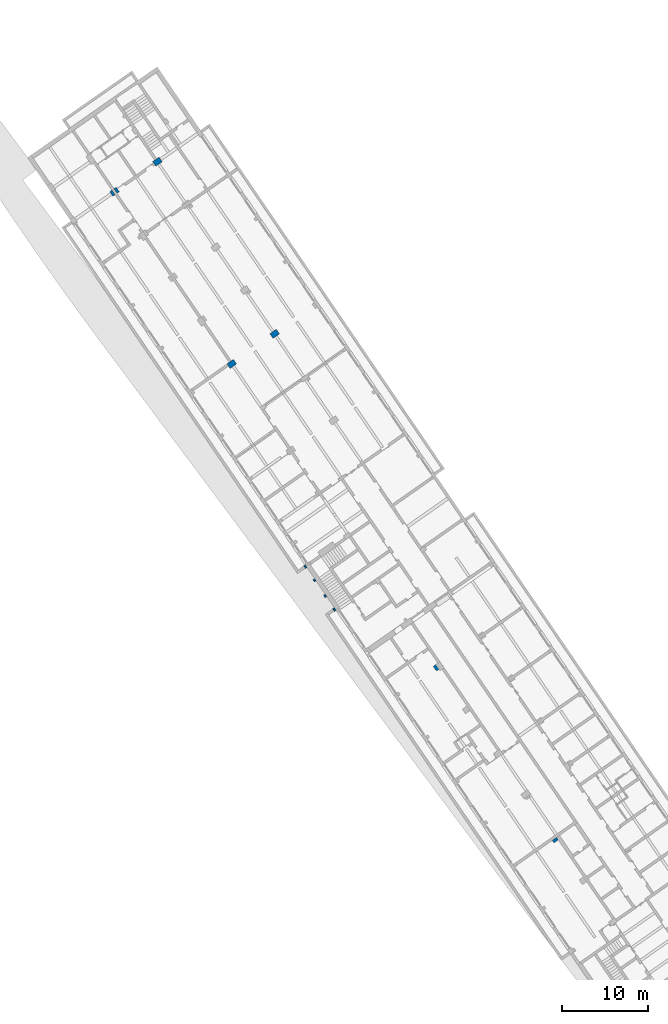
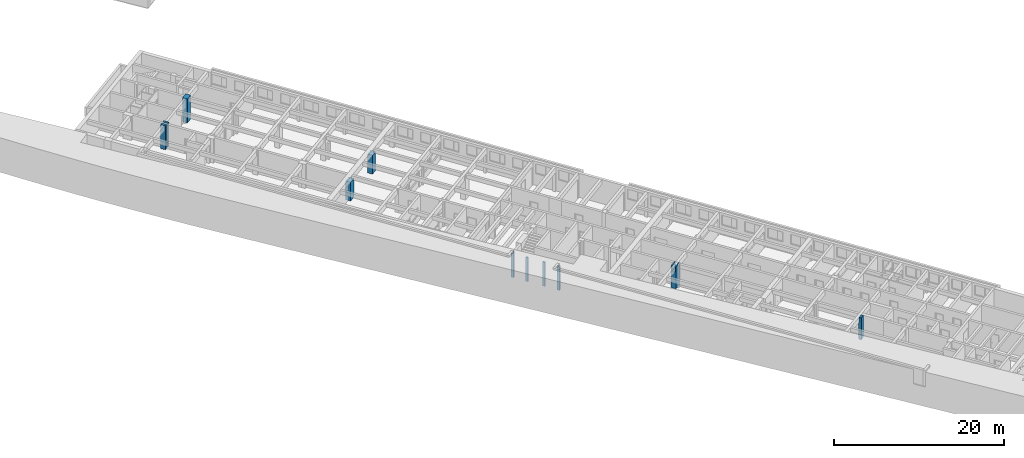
# One storey, part 1 of 112: 10 columns.
"""IFC2X3 building model written with IfcOpenShell, lengths in millimetres."""

from ifc_helpers import new_model, entity, si_unit, converted_unit, derived_unit, direction, frame, origin, origin_2d_with_axis, place, context, subcontext, project, spatial, polyline, rectangle, outline, extrude, faceted_brep, source, transform, mapped, material, material_list, type_object, type_shapes, element, save


model = new_model("IFC2X3")

# Units and contexts
model_context = context("Model", 3, precision=0.01, world=origin(), true_north=direction((6.123031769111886e-17, 1.0)))
body_context = subcontext(model_context, "Body", "Model", "MODEL_VIEW")
ifc_project = project(units=[si_unit("LENGTHUNIT", "METRE", prefix="MILLI"), si_unit("AREAUNIT", "SQUARE_METRE"), si_unit("VOLUMEUNIT", "CUBIC_METRE"), converted_unit("PLANEANGLEUNIT", "DEGREE", entity("IfcRatioMeasure", 0.017453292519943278), si_unit("PLANEANGLEUNIT", "RADIAN"), dimensions=[0, 0, 0, 0, 0, 0, 0]), si_unit("MASSUNIT", "GRAM", prefix="KILO"), derived_unit("MASSDENSITYUNIT", [(si_unit("MASSUNIT", "GRAM", prefix="KILO"), 1), (si_unit("LENGTHUNIT", "METRE"), -3)]), derived_unit("MOMENTOFINERTIAUNIT", [(si_unit("LENGTHUNIT", "METRE"), 4)]), si_unit("TIMEUNIT", "SECOND"), si_unit("FREQUENCYUNIT", "HERTZ"), si_unit("THERMODYNAMICTEMPERATUREUNIT", "DEGREE_CELSIUS"), derived_unit("THERMALTRANSMITTANCEUNIT", [(si_unit("MASSUNIT", "GRAM", prefix="KILO"), 1), (si_unit("THERMODYNAMICTEMPERATUREUNIT", "KELVIN"), -1), (si_unit("TIMEUNIT", "SECOND"), -3)]), derived_unit("THERMALCONDUCTANCEUNIT", [(si_unit("MASSUNIT", "GRAM", prefix="KILO"), 1), (si_unit("LENGTHUNIT", "METRE"), 1), (si_unit("THERMODYNAMICTEMPERATUREUNIT", "KELVIN"), -1), (si_unit("TIMEUNIT", "SECOND"), -3)]), derived_unit("VOLUMETRICFLOWRATEUNIT", [(si_unit("LENGTHUNIT", "METRE"), 3), (si_unit("TIMEUNIT", "SECOND"), -1)]), derived_unit("MASSFLOWRATEUNIT", [(si_unit("MASSUNIT", "GRAM", prefix="KILO"), 1), (si_unit("TIMEUNIT", "SECOND"), -1)]), derived_unit("ROTATIONALFREQUENCYUNIT", [(si_unit("TIMEUNIT", "SECOND"), -1)]), si_unit("ELECTRICCURRENTUNIT", "AMPERE"), si_unit("ELECTRICVOLTAGEUNIT", "VOLT"), si_unit("POWERUNIT", "WATT"), converted_unit("FORCEUNIT", "KIP", entity("IfcRatioMeasure", 2.088543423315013e-05), si_unit("FORCEUNIT", "NEWTON"), dimensions=[1, 1, -2, 0, 0, 0, 0]), si_unit("ILLUMINANCEUNIT", "LUX"), si_unit("LUMINOUSFLUXUNIT", "LUMEN"), si_unit("LUMINOUSINTENSITYUNIT", "CANDELA"), derived_unit("USERDEFINED", [(si_unit("MASSUNIT", "GRAM", prefix="KILO"), -1), (si_unit("LENGTHUNIT", "METRE"), -2), (si_unit("TIMEUNIT", "SECOND"), 3), (si_unit("LUMINOUSFLUXUNIT", "LUMEN"), 1)]), derived_unit("USERDEFINED", [(si_unit("MASSUNIT", "GRAM", prefix="KILO"), 1), (si_unit("LENGTHUNIT", "METRE"), 3), (si_unit("TIMEUNIT", "SECOND"), -3), (si_unit("ELECTRICCURRENTUNIT", "AMPERE"), -2)]), derived_unit("USERDEFINED", [(si_unit("LENGTHUNIT", "METRE"), 2), (si_unit("TIMEUNIT", "SECOND"), -2)]), derived_unit("SOUNDPOWERUNIT", [(si_unit("MASSUNIT", "GRAM", prefix="KILO"), 1), (si_unit("LENGTHUNIT", "METRE"), 2), (si_unit("TIMEUNIT", "SECOND"), -3)]), derived_unit("SOUNDPRESSUREUNIT", [(si_unit("MASSUNIT", "GRAM", prefix="KILO"), 1), (si_unit("LENGTHUNIT", "METRE"), -1), (si_unit("TIMEUNIT", "SECOND"), -2)]), derived_unit("LINEARVELOCITYUNIT", [(si_unit("LENGTHUNIT", "METRE"), 1), (si_unit("TIMEUNIT", "SECOND"), -1)]), si_unit("PRESSUREUNIT", "PASCAL"), derived_unit("USERDEFINED", [(si_unit("LENGTHUNIT", "METRE"), -2), (si_unit("MASSUNIT", "GRAM", prefix="KILO"), 1), (si_unit("TIMEUNIT", "SECOND"), -2)]), derived_unit("LINEARFORCEUNIT", [(si_unit("MASSUNIT", "GRAM", prefix="KILO"), 1), (si_unit("LENGTHUNIT", "METRE"), 1), (si_unit("TIMEUNIT", "SECOND"), -2), (si_unit("LENGTHUNIT", "METRE"), -1)]), derived_unit("PLANARFORCEUNIT", [(si_unit("MASSUNIT", "GRAM", prefix="KILO"), 1), (si_unit("LENGTHUNIT", "METRE"), 1), (si_unit("TIMEUNIT", "SECOND"), -2), (si_unit("LENGTHUNIT", "METRE"), -2)]), derived_unit("SPECIFICHEATCAPACITYUNIT", [(si_unit("LENGTHUNIT", "METRE"), 2), (si_unit("TIMEUNIT", "SECOND"), -2), (si_unit("THERMODYNAMICTEMPERATUREUNIT", "KELVIN"), -1)]), derived_unit("VAPORPERMEABILITYUNIT", [(si_unit("TIMEUNIT", "SECOND"), 1), (si_unit("LENGTHUNIT", "METRE"), -1)]), derived_unit("DYNAMICVISCOSITYUNIT", [(si_unit("MASSUNIT", "GRAM", prefix="KILO"), 1), (si_unit("LENGTHUNIT", "METRE"), -1), (si_unit("TIMEUNIT", "SECOND"), -1)]), derived_unit("THERMALEXPANSIONCOEFFICIENTUNIT", [(si_unit("THERMODYNAMICTEMPERATUREUNIT", "KELVIN"), -1)])], contexts=[model_context])

# Site, building, storey
site_placement = place(None, frame((0.0, 0.0, 0.0), z_axis=(0.0, 0.0, 1.0), x_axis=(0.8191520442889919, 0.5735764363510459, 0.0)))
site = spatial("IfcSite", under=ifc_project, at=site_placement, Name="Default", CompositionType="ELEMENT")
building_placement = place(site_placement, origin())
building = spatial("IfcBuilding", under=site, at=building_placement, CompositionType="ELEMENT")
storey_placement = place(building_placement, frame((0.0, 0.0, -3600.0)))
storey = spatial("IfcBuildingStorey", under=building, at=storey_placement, Name="0.UG -3.60", CompositionType="ELEMENT", Elevation=-3600.0000000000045)

# Columns
ifc_material_1 = material(Name="Analytical Wall Surface_CJC")
column_type_1 = type_object("IfcColumnType", Name="Columns_Rectangular:95x65", PredefinedType="COLUMN", material=ifc_material_1)
shared_shape_1 = source(origin(), body_context, "Body", "Brep", [
    faceted_brep([(0.0, 0.0, 3150.0), (600.0486186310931, 0.0, 3150.0), (603.8678043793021, 300.0, 3150.0), (0.0, 300.0, 3150.0), (600.0486186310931, 0.0, 0.0), (0.0, 0.0, 0.0), (0.0, 350.0, 0.0), (604.5043353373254, 350.0, 0.0), (0.0, 300.0, 2400.0), (0.0, 350.0, 2400.0), (604.5043353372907, 350.0, 2400.0), (603.8678043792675, 300.0, 2400.0)], [[[0, 1, 2, 3]], [[4, 5, 6, 7]], [[5, 0, 3, 8, 9, 6]], [[0, 5, 4, 1]], [[1, 4, 7, 10, 11, 2]], [[6, 9, 10, 7]], [[11, 8, 3, 2]], [[8, 11, 10, 9]]]),
])
type_shapes(column_type_1, [shared_shape_1])
column_1_placement = place(storey_placement, frame((-217942.3663755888, 72921.35891435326, 300.0)))
element("IfcColumn", 1, at=column_1_placement, inside=storey, type_object=column_type_1, material=ifc_material_1, Name="Columns_Rectangular:95x65", ObjectType="Columns_Rectangular:95x65", context=body_context, shape_type="MappedRepresentation", body=[
    mapped(shared_shape_1, transform((0.0, 0.0, 0.0), scale=1.0)),
])
column_type_2 = type_object("IfcColumnType", Name="Columns_Rectangular:95x65", PredefinedType="COLUMN", material=ifc_material_1)
shared_shape_2 = source(origin(), body_context, "Body", "Brep", [
    faceted_brep([(950.0, 650.0, 3150.0), (0.0, 650.0, 3150.0), (0.0, 500.0, 3150.0), (950.0, 500.0, 3150.0), (0.0, 650.0, 0.0), (950.0, 650.0, 0.0), (950.0, 0.0, 0.0), (0.0, 0.0, 0.0), (0.0, 0.0, 3150.0), (0.0, 150.0, 3150.0), (0.0, 150.0, 2400.0), (0.0, 500.0, 2400.0), (950.0, 0.0, 3150.0), (950.0, 500.0, 2400.0), (950.0, 150.0, 2400.0), (950.0, 150.0, 3150.0)], [[[0, 1, 2, 3]], [[4, 5, 6, 7]], [[4, 7, 8, 9, 10, 11, 2, 1]], [[12, 8, 7, 6]], [[6, 5, 0, 3, 13, 14, 15, 12]], [[1, 0, 5, 4]], [[11, 13, 3, 2]], [[14, 10, 9, 15]], [[13, 11, 10, 14]], [[8, 12, 15, 9]]]),
])
type_shapes(column_type_2, [shared_shape_2])
column_2_placement = place(storey_placement, frame((-217678.8606983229, 97071.35891435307, 300.0)))
element("IfcColumn", 2, at=column_2_placement, inside=storey, type_object=column_type_2, material=ifc_material_1, Name="Columns_Rectangular:95x65", ObjectType="Columns_Rectangular:95x65", context=body_context, shape_type="MappedRepresentation", body=[
    mapped(shared_shape_2, transform((0.0, 0.0, 0.0), scale=1.0)),
])
ifc_material_2 = material(Name="<Unnamed>")
ifc_material_list = material_list([ifc_material_2, ifc_material_1])
column_type_3 = type_object("IfcColumnType", Name="Columns_Rectangular:90x65", PredefinedType="COLUMN", material=ifc_material_list)
shared_shape_3 = source(origin(), body_context, "Body", "SweptSolid", [
    extrude(outline(polyline([(-186.25983947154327, -462.4814020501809), (463.7401605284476, -462.4814020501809), (463.7401605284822, 437.5185979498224), (-186.25983947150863, 437.5185979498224), (-186.25983947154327, 116.66617805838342), (-182.44096317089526, 116.61756139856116), (-186.25983947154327, -183.3581312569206), (-186.25983947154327, -462.4814020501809)])), frame((-210294.93750104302, 164134.61292798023, -3600.0), z_axis=(0.0, 0.0, 1.0), x_axis=(0.0, -1.0, 0.0)), (0.0, 0.0, 1.0), 3450.000000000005),
])
type_shapes(column_type_3, [shared_shape_3])
column_3_placement = place(storey_placement, frame((0.0, 0.0, 3600.0)))
element("IfcColumn", 3, at=column_3_placement, inside=storey, type_object=column_type_3, material=ifc_material_1, Name="Columns_Rectangular:90x65", ObjectType="Columns_Rectangular:90x65", context=body_context, shape_type="MappedRepresentation", body=[
    mapped(shared_shape_3, transform((0.0, 0.0, 0.0), scale=1.0)),
])
column_type_4 = type_object("IfcColumnType", Name="Columns_Rectangular:90x65", PredefinedType="COLUMN", material=ifc_material_list)
shared_shape_4 = source(origin(), body_context, "Body", "SweptSolid", [
    extrude(outline(polyline([(-325.0, -149.9908840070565), (325.0, -149.9908840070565), (325.0, 145.85343277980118), (-325.0, 154.1283352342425), (-325.0, -149.9908840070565)])), frame((-216682.91420538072, 163995.87276745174, -3600.0), z_axis=(0.0, 0.0, 1.0), x_axis=(0.0, -1.0, 0.0)), (0.0, 0.0, 1.0), 3450.0),
    extrude(outline(polyline([(-154.13441256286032, -325.0), (149.99696133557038, -325.0), (149.99696133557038, 325.0), (-145.85951010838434, 325.0), (-154.13441256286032, -325.0)])), frame((-216082.90205072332, 163995.87276745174, -3600.0)), (0.0, 0.0, 1.0), 3450.0),
])
type_shapes(column_type_4, [shared_shape_4])
column_4_placement = place(storey_placement, frame((0.0, 0.0, 3600.0)))
element("IfcColumn", 4, at=column_4_placement, inside=storey, type_object=column_type_4, material=ifc_material_1, Name="Columns_Rectangular:90x65", ObjectType="Columns_Rectangular:90x65", context=body_context, shape_type="MappedRepresentation", body=[
    mapped(shared_shape_4, transform((0.0, 0.0, 0.0), scale=1.0)),
])
column_type_5 = type_object("IfcColumnType", Name="Columns_Rectangular:90x65", PredefinedType="COLUMN", material=ifc_material_list)
shared_shape_5 = source(origin(), body_context, "Body", "SweptSolid", [
    extrude(rectangle(XDim=650.0000000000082, YDim=900.0000000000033, at=origin_2d_with_axis()), frame((-210618.9581540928, 139846.35891435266, -3600.0), z_axis=(0.0, 0.0, 1.0), x_axis=(0.0, -1.0, 0.0)), (0.0, 0.0, 1.0), 2700.0000000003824),
])
type_shapes(column_type_5, [shared_shape_5])
column_5_placement = place(storey_placement, frame((0.0, 0.0, 3600.0)))
element("IfcColumn", 5, at=column_5_placement, inside=storey, type_object=column_type_5, material=ifc_material_1, Name="Columns_Rectangular:90x65", ObjectType="Columns_Rectangular:90x65", context=body_context, shape_type="MappedRepresentation", body=[
    mapped(shared_shape_5, transform((0.0, 0.0, 0.0), scale=1.0)),
])
column_type_6 = type_object("IfcColumnType", Name="Columns_Rectangular:90x65", PredefinedType="COLUMN", material=ifc_material_list)
shared_shape_6 = source(origin(), body_context, "Body", "SweptSolid", [
    extrude(rectangle(XDim=650.0000000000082, YDim=900.0000000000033, at=origin_2d_with_axis()), frame((-216694.45041774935, 139846.358914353, -3600.0), z_axis=(0.0, 0.0, 1.0), x_axis=(0.0, -1.0, 0.0)), (0.0, 0.0, 1.0), 2700.0000000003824),
])
type_shapes(column_type_6, [shared_shape_6])
column_6_placement = place(storey_placement, frame((0.0, 0.0, 3600.0)))
element("IfcColumn", 6, at=column_6_placement, inside=storey, type_object=column_type_6, material=ifc_material_1, Name="Columns_Rectangular:90x65", ObjectType="Columns_Rectangular:90x65", context=body_context, shape_type="MappedRepresentation", body=[
    mapped(shared_shape_6, transform((0.0, 0.0, 0.0), scale=1.0)),
])
column_type_7 = type_object("IfcColumnType", Name="Columns_Rectangular:67.5x35", PredefinedType="COLUMN", material=ifc_material_1)
shared_shape_7 = source(origin(), body_context, "Body", "Brep", [
    faceted_brep([(0.0, 0.0, 3450.0), (203.675981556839, 0.0, 3450.0), (208.13169826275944, 350.0, 3450.0), (0.0, 350.0, 3450.0), (0.0, 325.0, 3450.0), (7.735763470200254, 325.0, 3450.0), (7.735763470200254, 25.0, 3450.0), (0.0, 25.0, 3450.0), (0.0, 0.0, 0.0), (0.0, 350.0, 0.0), (208.1316982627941, 350.0, 0.0), (203.67598155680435, 0.0, 0.0), (0.0, 25.0, 1600.0), (0.0, 325.0, 1600.0), (7.735763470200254, 25.0, 1600.0), (7.735763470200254, 325.0, 1600.0)], [[[0, 1, 2, 3, 4, 5, 6, 7]], [[8, 9, 10, 11]], [[9, 8, 0, 7, 12, 13, 4, 3]], [[0, 8, 11, 1]], [[9, 3, 2, 10]], [[11, 10, 2, 1]], [[6, 14, 12, 7]], [[13, 15, 5, 4]], [[14, 15, 13, 12]], [[15, 14, 6, 5]]]),
])
type_shapes(column_type_7, [shared_shape_7])
column_7_placement = place(storey_placement, frame((-223380.51426439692, 109521.35891435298, 0.0)))
element("IfcColumn", 7, at=column_7_placement, inside=storey, type_object=column_type_7, material=ifc_material_1, Name="Columns_Rectangular:67.5x35", ObjectType="Columns_Rectangular:67.5x35", context=body_context, shape_type="MappedRepresentation", body=[
    mapped(shared_shape_7, transform((0.0, 0.0, 0.0), scale=1.0)),
])
column_type_8 = type_object("IfcColumnType", Name="Columns_Rectangular:67.5x30", PredefinedType="COLUMN", material=ifc_material_list)
shared_shape_8 = source(origin(), body_context, "Body", "SweptSolid", [
    extrude(outline(polyline([(-150.0, -99.0425157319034), (150.0, -99.0425157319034), (150.0, 97.1329228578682), (-150.0, 100.95210860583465), (-150.0, -99.0425157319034)])), frame((-223221.471748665, 113795.23194626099, -3600.0), z_axis=(0.0, 0.0, 1.0), x_axis=(0.0, -1.0, 0.0)), (0.0, 0.0, 1.0), 3450.000000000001),
])
type_shapes(column_type_8, [shared_shape_8])
column_8_placement = place(storey_placement, frame((0.0, 0.0, 3600.0)))
element("IfcColumn", 8, at=column_8_placement, inside=storey, type_object=column_type_8, material=ifc_material_1, Name="Columns_Rectangular:67.5x30", ObjectType="Columns_Rectangular:67.5x30", context=body_context, shape_type="MappedRepresentation", body=[
    mapped(shared_shape_8, transform((0.0, 0.0, 0.0), scale=1.0)),
])
column_type_9 = type_object("IfcColumnType", Name="Columns_Rectangular:67.5x30", PredefinedType="COLUMN", material=ifc_material_list)
shared_shape_9 = source(origin(), body_context, "Body", "SweptSolid", [
    extrude(outline(polyline([(-150.0, -100.03883465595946), (150.0, -100.03883465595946), (150.0, 98.12924178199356), (-150.0, 101.94842752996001), (-150.0, -100.03883465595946)])), frame((-223250.4754297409, 111595.231946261, -3600.0), z_axis=(0.0, 0.0, 1.0), x_axis=(0.0, -1.0, 0.0)), (0.0, 0.0, 1.0), 3450.0),
])
type_shapes(column_type_9, [shared_shape_9])
column_9_placement = place(storey_placement, frame((0.0, 0.0, 3600.0)))
element("IfcColumn", 9, at=column_9_placement, inside=storey, type_object=column_type_9, material=ifc_material_1, Name="Columns_Rectangular:67.5x30", ObjectType="Columns_Rectangular:67.5x30", context=body_context, shape_type="MappedRepresentation", body=[
    mapped(shared_shape_9, transform((0.0, 0.0, 0.0), scale=1.0)),
])
column_type_10 = type_object("IfcColumnType", Name="Columns_Rectangular:67.5x35", PredefinedType="COLUMN", material=ifc_material_list)
shared_shape_10 = source(origin(), body_context, "Body", "SweptSolid", [
    extrude(outline(polyline([(-175.0, -96.14377743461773), (175.0, -96.14377743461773), (175.0, 93.91591908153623), (-175.0, 98.37163578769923), (-175.0, -96.14377743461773)])), frame((-223194.37048696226, 115696.35891435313, -3600.0), z_axis=(0.0, 0.0, 1.0), x_axis=(0.0, -1.0, 0.0)), (0.0, 0.0, 1.0), 3450.0000000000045),
    extrude(outline(polyline([(-89.40349694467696, -65.78912893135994), (88.55881851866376, -65.78912893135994), (88.55881851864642, 64.66709697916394), (-87.71414009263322, 66.91116088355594), (-89.40349694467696, -65.78912893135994)])), frame((-222681.30339332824, 115782.80009583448, -3600.0), z_axis=(0.0, 0.0, 1.0), x_axis=(0.0, 1.0, 0.0)), (0.0, 0.0, 1.0), 3450.0000000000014),
])
type_shapes(column_type_10, [shared_shape_10])
column_10_placement = place(storey_placement, frame((0.0, 0.0, 3600.0)))
element("IfcColumn", 10, at=column_10_placement, inside=storey, type_object=column_type_10, material=ifc_material_1, Name="Columns_Rectangular:67.5x35", ObjectType="Columns_Rectangular:67.5x35", context=body_context, shape_type="MappedRepresentation", body=[
    mapped(shared_shape_10, transform((0.0, 0.0, 0.0), scale=1.0)),
])

save(model, "model.ifc")
